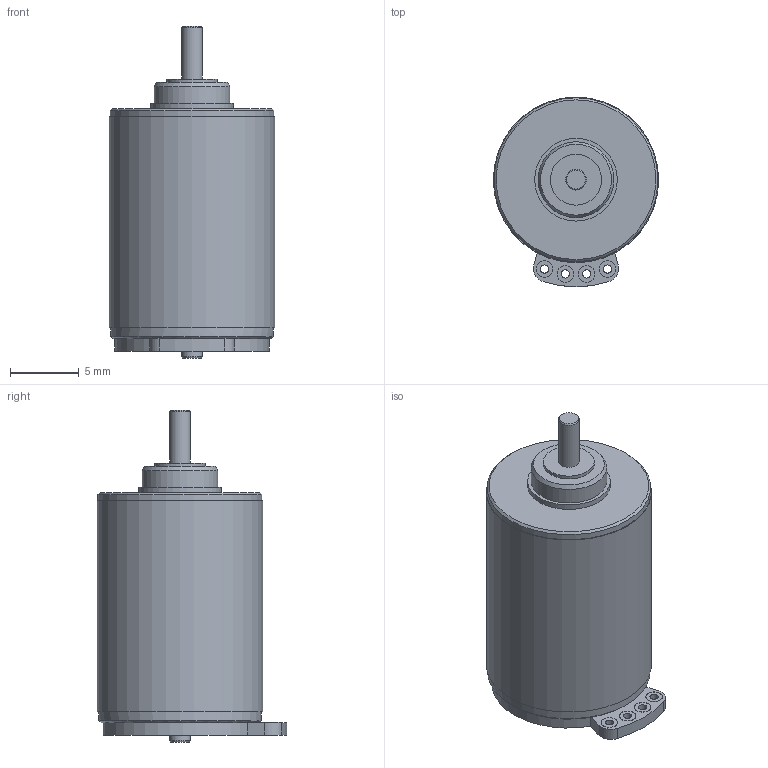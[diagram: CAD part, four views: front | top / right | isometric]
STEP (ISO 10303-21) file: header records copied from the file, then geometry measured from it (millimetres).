
FILE_DESCRIPTION(/* description */ (''),/* implementation_level */ '2;1');
FILE_NAME(/* name */ 'DM1220_31.stp',/* time_stamp */ '2018-11-28T08:24:37+01:00',/* author */ ('DR. FRITZ FAULHABER GmbH & Co. KG'),/* organization */ ('DR. FRITZ FAULHABER GmbH & Co. KG'),/* preprocessor_version */ 'ST-DEVELOPER v16.7',/* originating_system */ 'SIEMENS PLM Software NX 12.0',/* authorisation */ '');
FILE_SCHEMA (('AUTOMOTIVE_DESIGN { 1 0 10303 214 3 1 1 1 }'));
Length unit declared in the file: millimetre
Products named in the file (1): Alle_Motoren
Bounding box: 12 x 13.75 x 24.1 mm (x, y, z)
Volume: 2027.3 mm3; surface area: 1013.2 mm2
Topology: 1 solids, 1 shells, 152 faces, 352 edges, 234 vertices
Faces by surface type: plane 96, cylinder 27, extrusion 24, cone 5
Full cylindrical faces by diameter (mm): 0.6 x4, 1.2 x8, 1.5 x2, 3.4 x1, 3.7 x1, 3.85 x1, 4 x1, 5.5 x1, 6 x1, 11.8 x1, 11.9 x1, 12 x1
Entity records: 4775 total; most frequent: CARTESIAN_POINT 1527, ORIENTED_EDGE 636, DIRECTION 496, EDGE_CURVE 318, VERTEX_POINT 228, EDGE_LOOP 220, AXIS2_PLACEMENT_3D 189, B_SPLINE_CURVE_WITH_KNOTS 188
